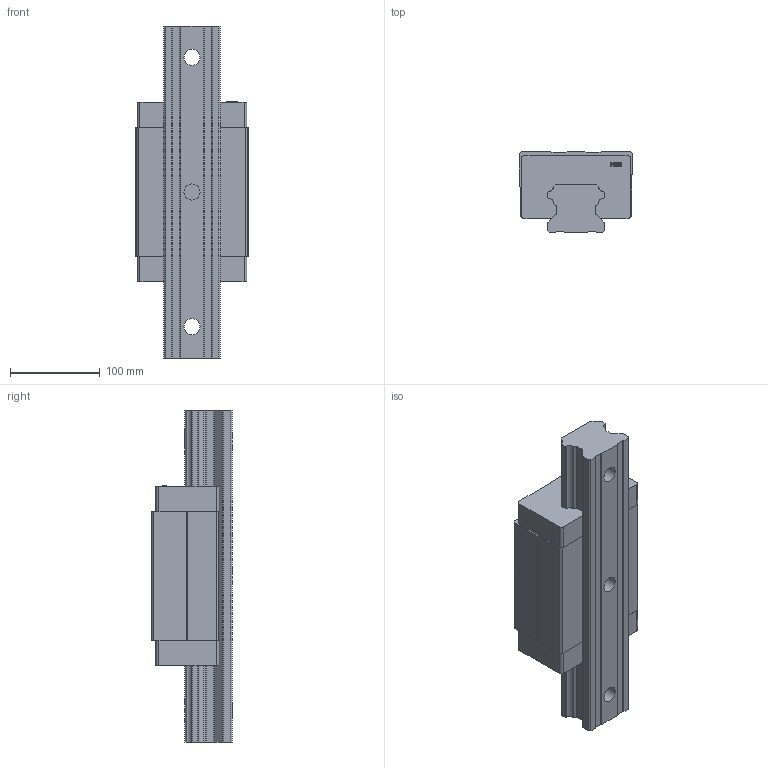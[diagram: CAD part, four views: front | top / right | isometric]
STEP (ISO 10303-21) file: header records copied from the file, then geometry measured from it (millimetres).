
FILE_DESCRIPTION(/* description */ (''),/* implementation_level */ '2;1');
FILE_NAME(/* name */ 'HGH65CA.stp',/* time_stamp */ '2021-05-25T20:59:12+08:00',/* author */ (''),/* organization */ (''),/* preprocessor_version */ 'ST-DEVELOPER v15',/* originating_system */ 'SIEMENS PLM Software NX 8.5',/* authorisation */ '');
FILE_SCHEMA (('CONFIG_CONTROL_DESIGN'));
Length unit declared in the file: millimetre
Products named in the file (1): _model1
Bounding box: 126 x 90 x 370 mm (x, y, z)
Volume: 2413245.8 mm3; surface area: 218905.8 mm2
Topology: 2 solids, 2 shells, 178 faces, 493 edges, 330 vertices
Faces by surface type: plane 119, cylinder 36, extrusion 23
Full cylindrical faces by diameter (mm): 16 x4, 18 x3, 26 x3
Entity records: 5918 total; most frequent: CARTESIAN_POINT 1425, ORIENTED_EDGE 958, DIRECTION 800, EDGE_CURVE 479, VECTOR 344, VERTEX_POINT 326, LINE 321, AXIS2_PLACEMENT_3D 228
